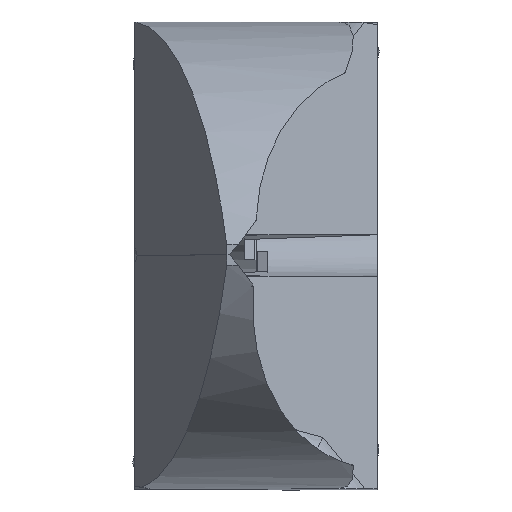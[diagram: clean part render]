
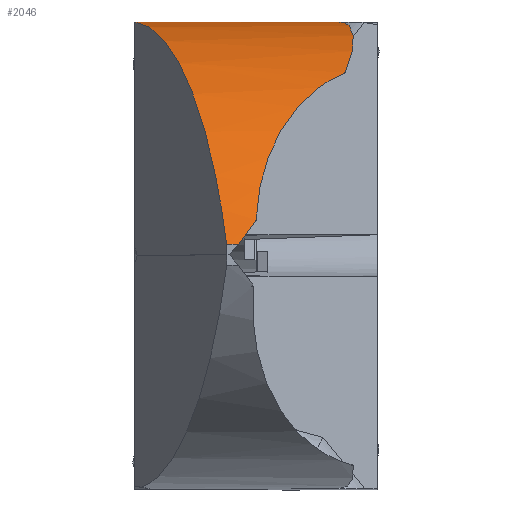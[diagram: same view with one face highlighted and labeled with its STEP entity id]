
A CAD part, top view. The second image highlights one B-rep face of the part: STEP entity #2046.
In plain terms, the highlighted cylindrical face has radius 19.05 mm (diameter 38.1 mm), a partial arc.
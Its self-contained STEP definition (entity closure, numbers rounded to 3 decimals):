
#925 = ORIENTED_EDGE ( 'NONE', *, *, #7927, .T. ) ;
#926 = ORIENTED_EDGE ( 'NONE', *, *, #7928, .T. ) ;
#927 = ORIENTED_EDGE ( 'NONE', *, *, #7867, .T. ) ;
#928 = ORIENTED_EDGE ( 'NONE', *, *, #7871, .T. ) ;
#929 = ORIENTED_EDGE ( 'NONE', *, *, #7874, .T. ) ;
#930 = ORIENTED_EDGE ( 'NONE', *, *, #7929, .T. ) ;
#931 = ORIENTED_EDGE ( 'NONE', *, *, #7930, .T. ) ;
#1039 = CIRCLE ( 'NONE', #2162, 19.05 ) ;
#1043 = VECTOR ( 'NONE', #4153, 1000. ) ;
#1045 = LINE ( 'NONE', #4154, #1043 ) ;
#1046 = VECTOR ( 'NONE', #4155, 1000. ) ;
#1047 = LINE ( 'NONE', #4156, #1046 ) ;
#1330 = EDGE_LOOP ( 'NONE', ( #925, #926, #927, #928, #929, #930, #931 ) ) ;
#1794 = CYLINDRICAL_SURFACE ( 'NONE', #2397, 19.05 ) ;
#1795 = FACE_OUTER_BOUND ( 'NONE', #1330, .T. ) ;
#1945 = B_SPLINE_CURVE_WITH_KNOTS ( 'NONE', 3,
 ( #4589, #4588, #4587, #4584, #4583, #4582, #4581, #4580, #4579, #4578, #4577, #4576, #4575, #4574 ),
 .UNSPECIFIED., .F., .F.,
 ( 4, 2, 2, 2, 2, 2, 4 ),
 ( 0., 0.003, 0.004, 0.006, 0.009, 0.01, 0.011 ),
 .UNSPECIFIED. ) ;
#2046 = ADVANCED_FACE ( 'NONE', ( #1795 ), #1794, .T. ) ;
#2162 = AXIS2_PLACEMENT_3D ( 'NONE', #4152, #4151, #4150 ) ;
#2397 = AXIS2_PLACEMENT_3D ( 'NONE', #6336, #6334, #6327 ) ;
#3000 = CARTESIAN_POINT ( 'NONE',  ( -5.931, 11.425, 18.785 ) ) ;
#3008 = CARTESIAN_POINT ( 'NONE',  ( -5.931, 11.43, 18.331 ) ) ;
#3015 = CARTESIAN_POINT ( 'NONE',  ( -1.436, 0.508, 35.56 ) ) ;
#3141 = CARTESIAN_POINT ( 'NONE',  ( 0.004, 1.695, 34.948 ) ) ;
#3173 = CARTESIAN_POINT ( 'NONE',  ( -0.863, 0.508, 35.56 ) ) ;
#3200 = CARTESIAN_POINT ( 'NONE',  ( 4.008, 11.43, 18.331 ) ) ;
#3254 = CARTESIAN_POINT ( 'NONE',  ( 4.367, 8.936, 27.754 ) ) ;
#4150 = DIRECTION ( 'NONE',  ( 0., 0., 1. ) ) ;
#4151 = DIRECTION ( 'NONE',  ( 1., 0., 0. ) ) ;
#4152 = CARTESIAN_POINT ( 'NONE',  ( -5.931, -7.62, 18.331 ) ) ;
#4153 = DIRECTION ( 'NONE',  ( -1., 0., 0. ) ) ;
#4154 = CARTESIAN_POINT ( 'NONE',  ( 6.541, 11.43, 18.331 ) ) ;
#4155 = DIRECTION ( 'NONE',  ( 1., 0., 0. ) ) ;
#4156 = CARTESIAN_POINT ( 'NONE',  ( 6.541, 0.508, 35.56 ) ) ;
#4157 = CARTESIAN_POINT ( 'NONE',  ( -1.436, 0.508, 35.56 ) ) ;
#4158 = CARTESIAN_POINT ( 'NONE',  ( -2.283, 7.208, 32.399 ) ) ;
#4159 = CARTESIAN_POINT ( 'NONE',  ( -3.947, 11.248, 26.191 ) ) ;
#4160 = CARTESIAN_POINT ( 'NONE',  ( -5.931, 11.425, 18.785 ) ) ;
#4564 = CARTESIAN_POINT ( 'NONE',  ( 4.008, 11.43, 18.331 ) ) ;
#4565 = CARTESIAN_POINT ( 'NONE',  ( 4.898, 11.43, 21.654 ) ) ;
#4566 = CARTESIAN_POINT ( 'NONE',  ( 5.021, 10.58, 24.866 ) ) ;
#4567 = CARTESIAN_POINT ( 'NONE',  ( 4.367, 8.936, 27.754 ) ) ;
#4574 = CARTESIAN_POINT ( 'NONE',  ( 4.367, 8.936, 27.754 ) ) ;
#4575 = CARTESIAN_POINT ( 'NONE',  ( 4., 8.779, 28.03 ) ) ;
#4576 = CARTESIAN_POINT ( 'NONE',  ( 3.671, 8.599, 28.33 ) ) ;
#4577 = CARTESIAN_POINT ( 'NONE',  ( 3.061, 8.198, 28.954 ) ) ;
#4578 = CARTESIAN_POINT ( 'NONE',  ( 2.779, 7.975, 29.28 ) ) ;
#4579 = CARTESIAN_POINT ( 'NONE',  ( 2.005, 7.254, 30.26 ) ) ;
#4580 = CARTESIAN_POINT ( 'NONE',  ( 1.578, 6.709, 30.916 ) ) ;
#4581 = CARTESIAN_POINT ( 'NONE',  ( 1.038, 5.784, 31.875 ) ) ;
#4582 = CARTESIAN_POINT ( 'NONE',  ( 0.875, 5.455, 32.193 ) ) ;
#4583 = CARTESIAN_POINT ( 'NONE',  ( 0.59, 4.774, 32.805 ) ) ;
#4584 = CARTESIAN_POINT ( 'NONE',  ( 0.468, 4.421, 33.1 ) ) ;
#4587 = CARTESIAN_POINT ( 'NONE',  ( 0.161, 3.323, 33.952 ) ) ;
#4588 = CARTESIAN_POINT ( 'NONE',  ( 0.035, 2.539, 34.475 ) ) ;
#4589 = CARTESIAN_POINT ( 'NONE',  ( 0.004, 1.695, 34.948 ) ) ;
#4599 = CARTESIAN_POINT ( 'NONE',  ( 0.004, 1.695, 34.948 ) ) ;
#4600 = CARTESIAN_POINT ( 'NONE',  ( -0.275, 1.306, 35.166 ) ) ;
#4602 = CARTESIAN_POINT ( 'NONE',  ( -0.564, 0.911, 35.37 ) ) ;
#4603 = CARTESIAN_POINT ( 'NONE',  ( -0.863, 0.508, 35.56 ) ) ;
#5502 =( BOUNDED_CURVE ( )  B_SPLINE_CURVE ( 3, ( #4567, #4566, #4565, #4564 ),
 .UNSPECIFIED., .F., .T. ) 
 B_SPLINE_CURVE_WITH_KNOTS ( ( 4, 4 ),
 ( 2.923, 3.441 ),
 .UNSPECIFIED. ) 
 CURVE ( )  GEOMETRIC_REPRESENTATION_ITEM ( )  RATIONAL_B_SPLINE_CURVE ( ( 1., 0.978, 0.978, 1. ) ) 
 REPRESENTATION_ITEM ( '' )  );
#5503 =( BOUNDED_CURVE ( )  B_SPLINE_CURVE ( 3, ( #4603, #4602, #4600, #4599 ),
 .UNSPECIFIED., .F., .F. ) 
 B_SPLINE_CURVE_WITH_KNOTS ( ( 4, 4 ),
 ( 2.311, 2.381 ),
 .UNSPECIFIED. ) 
 CURVE ( )  GEOMETRIC_REPRESENTATION_ITEM ( )  RATIONAL_B_SPLINE_CURVE ( ( 1., 1., 1., 1. ) ) 
 REPRESENTATION_ITEM ( '' )  );
#5504 =( BOUNDED_CURVE ( )  B_SPLINE_CURVE ( 3, ( #4160, #4159, #4158, #4157 ),
 .UNSPECIFIED., .F., .T. ) 
 B_SPLINE_CURVE_WITH_KNOTS ( ( 4, 4 ),
 ( 1.595, 2.701 ),
 .UNSPECIFIED. ) 
 CURVE ( )  GEOMETRIC_REPRESENTATION_ITEM ( )  RATIONAL_B_SPLINE_CURVE ( ( 1., 0.901, 0.901, 1. ) ) 
 REPRESENTATION_ITEM ( '' )  );
#6327 = DIRECTION ( 'NONE',  ( 0., 0., 1. ) ) ;
#6334 = DIRECTION ( 'NONE',  ( -1., 0., 0. ) ) ;
#6336 = CARTESIAN_POINT ( 'NONE',  ( 6.541, -7.62, 18.331 ) ) ;
#7417 = VERTEX_POINT ( 'NONE', #3254 ) ;
#7461 = VERTEX_POINT ( 'NONE', #3200 ) ;
#7482 = VERTEX_POINT ( 'NONE', #3173 ) ;
#7514 = VERTEX_POINT ( 'NONE', #3141 ) ;
#7625 = VERTEX_POINT ( 'NONE', #3015 ) ;
#7630 = VERTEX_POINT ( 'NONE', #3008 ) ;
#7638 = VERTEX_POINT ( 'NONE', #3000 ) ;
#7867 = EDGE_CURVE ( 'NONE', #7482, #7514, #5503, .T. ) ;
#7871 = EDGE_CURVE ( 'NONE', #7514, #7417, #1945, .T. ) ;
#7874 = EDGE_CURVE ( 'NONE', #7417, #7461, #5502, .T. ) ;
#7927 = EDGE_CURVE ( 'NONE', #7638, #7625, #5504, .T. ) ;
#7928 = EDGE_CURVE ( 'NONE', #7625, #7482, #1047, .T. ) ;
#7929 = EDGE_CURVE ( 'NONE', #7461, #7630, #1045, .T. ) ;
#7930 = EDGE_CURVE ( 'NONE', #7630, #7638, #1039, .T. ) ;
